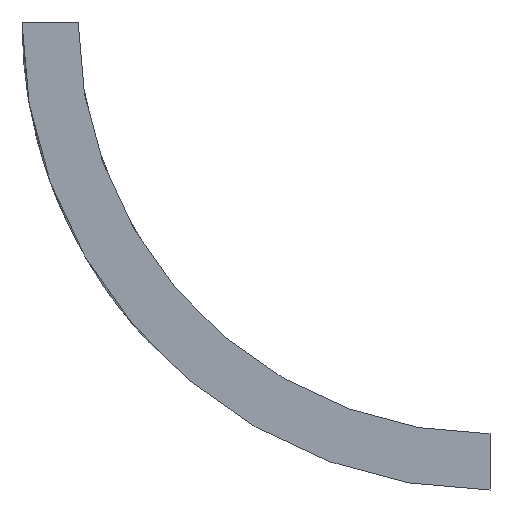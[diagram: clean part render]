
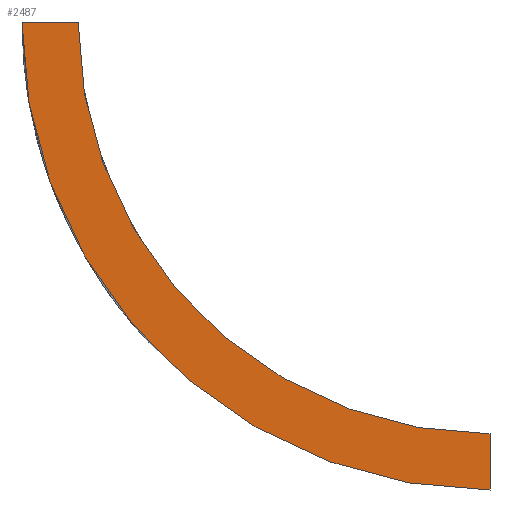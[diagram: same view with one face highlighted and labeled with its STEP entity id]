
A CAD part, front view. The second image highlights one B-rep face of the part: STEP entity #2487.
In plain terms, the highlighted planar face has unit normal (0, -1, 0).
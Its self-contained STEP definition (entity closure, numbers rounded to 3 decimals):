
#32 = CYLINDRICAL_SURFACE('',#33,10.);
#33 = AXIS2_PLACEMENT_3D('',#34,#35,#36);
#34 = CARTESIAN_POINT('',(-29.,-25.,-14.));
#35 = DIRECTION('',(0.,1.,0.));
#36 = DIRECTION('',(-0.707,0.,-0.707));
#422 = VERTEX_POINT('',#423);
#423 = CARTESIAN_POINT('',(-29.,-50.,-24.));
#437 = PLANE('',#438);
#438 = AXIS2_PLACEMENT_3D('',#439,#440,#441);
#439 = CARTESIAN_POINT('',(-29.,0.,-23.4));
#440 = DIRECTION('',(-1.,-0.,-0.));
#441 = DIRECTION('',(0.,0.,-1.));
#449 = EDGE_CURVE('',#450,#422,#452,.T.);
#450 = VERTEX_POINT('',#451);
#451 = CARTESIAN_POINT('',(-39.,-50.,-14.));
#452 = SURFACE_CURVE('',#453,(#458,#465),.PCURVE_S1.);
#453 = CIRCLE('',#454,10.);
#454 = AXIS2_PLACEMENT_3D('',#455,#456,#457);
#455 = CARTESIAN_POINT('',(-29.,-50.,-14.));
#456 = DIRECTION('',(0.,-1.,0.));
#457 = DIRECTION('',(-1.,0.,0.));
#458 = PCURVE('',#32,#459);
#459 = DEFINITIONAL_REPRESENTATION('',(#460),#464);
#460 = LINE('',#461,#462);
#461 = CARTESIAN_POINT('',(0.785,-25.));
#462 = VECTOR('',#463,1.);
#463 = DIRECTION('',(-1.,0.));
#464 = ( GEOMETRIC_REPRESENTATION_CONTEXT(2) 
PARAMETRIC_REPRESENTATION_CONTEXT() REPRESENTATION_CONTEXT('2D SPACE',''
  ) );
#465 = PCURVE('',#466,#471);
#466 = PLANE('',#467);
#467 = AXIS2_PLACEMENT_3D('',#468,#469,#470);
#468 = CARTESIAN_POINT('',(-34.782,-50.,-19.782));
#469 = DIRECTION('',(-0.,-1.,-0.));
#470 = DIRECTION('',(0.,0.,-1.));
#471 = DEFINITIONAL_REPRESENTATION('',(#472),#476);
#472 = CIRCLE('',#473,10.);
#473 = AXIS2_PLACEMENT_2D('',#474,#475);
#474 = CARTESIAN_POINT('',(-5.782,5.782));
#475 = DIRECTION('',(0.,-1.));
#476 = ( GEOMETRIC_REPRESENTATION_CONTEXT(2) 
PARAMETRIC_REPRESENTATION_CONTEXT() REPRESENTATION_CONTEXT('2D SPACE',''
  ) );
#494 = PLANE('',#495);
#495 = AXIS2_PLACEMENT_3D('',#496,#497,#498);
#496 = CARTESIAN_POINT('',(-38.4,-49.027,-14.));
#497 = DIRECTION('',(0.,-0.,-1.));
#498 = DIRECTION('',(-1.,0.,0.));
#1425 = CYLINDRICAL_SURFACE('',#1426,8.8);
#1426 = AXIS2_PLACEMENT_3D('',#1427,#1428,#1429);
#1427 = CARTESIAN_POINT('',(-29.,-25.,-14.));
#1428 = DIRECTION('',(0.,1.,0.));
#1429 = DIRECTION('',(-0.707,0.,-0.707));
#1725 = VERTEX_POINT('',#1726);
#1726 = CARTESIAN_POINT('',(-29.,-50.,-22.8));
#1747 = EDGE_CURVE('',#1748,#1725,#1750,.T.);
#1748 = VERTEX_POINT('',#1749);
#1749 = CARTESIAN_POINT('',(-37.8,-50.,-14.));
#1750 = SURFACE_CURVE('',#1751,(#1756,#1763),.PCURVE_S1.);
#1751 = CIRCLE('',#1752,8.8);
#1752 = AXIS2_PLACEMENT_3D('',#1753,#1754,#1755);
#1753 = CARTESIAN_POINT('',(-29.,-50.,-14.));
#1754 = DIRECTION('',(0.,-1.,-0.));
#1755 = DIRECTION('',(-1.,0.,0.));
#1756 = PCURVE('',#1425,#1757);
#1757 = DEFINITIONAL_REPRESENTATION('',(#1758),#1762);
#1758 = LINE('',#1759,#1760);
#1759 = CARTESIAN_POINT('',(0.785,-25.));
#1760 = VECTOR('',#1761,1.);
#1761 = DIRECTION('',(-1.,0.));
#1762 = ( GEOMETRIC_REPRESENTATION_CONTEXT(2) 
PARAMETRIC_REPRESENTATION_CONTEXT() REPRESENTATION_CONTEXT('2D SPACE',''
  ) );
#1763 = PCURVE('',#466,#1764);
#1764 = DEFINITIONAL_REPRESENTATION('',(#1765),#1769);
#1765 = CIRCLE('',#1766,8.8);
#1766 = AXIS2_PLACEMENT_2D('',#1767,#1768);
#1767 = CARTESIAN_POINT('',(-5.782,5.782));
#1768 = DIRECTION('',(0.,-1.));
#1769 = ( GEOMETRIC_REPRESENTATION_CONTEXT(2) 
PARAMETRIC_REPRESENTATION_CONTEXT() REPRESENTATION_CONTEXT('2D SPACE',''
  ) );
#2465 = EDGE_CURVE('',#422,#1725,#2466,.T.);
#2466 = SURFACE_CURVE('',#2467,(#2471,#2478),.PCURVE_S1.);
#2467 = LINE('',#2468,#2469);
#2468 = CARTESIAN_POINT('',(-29.,-50.,-24.));
#2469 = VECTOR('',#2470,1.);
#2470 = DIRECTION('',(0.,0.,1.));
#2471 = PCURVE('',#437,#2472);
#2472 = DEFINITIONAL_REPRESENTATION('',(#2473),#2477);
#2473 = LINE('',#2474,#2475);
#2474 = CARTESIAN_POINT('',(0.6,50.));
#2475 = VECTOR('',#2476,1.);
#2476 = DIRECTION('',(-1.,0.));
#2477 = ( GEOMETRIC_REPRESENTATION_CONTEXT(2) 
PARAMETRIC_REPRESENTATION_CONTEXT() REPRESENTATION_CONTEXT('2D SPACE',''
  ) );
#2478 = PCURVE('',#466,#2479);
#2479 = DEFINITIONAL_REPRESENTATION('',(#2480),#2484);
#2480 = LINE('',#2481,#2482);
#2481 = CARTESIAN_POINT('',(4.218,5.782));
#2482 = VECTOR('',#2483,1.);
#2483 = DIRECTION('',(-1.,0.));
#2484 = ( GEOMETRIC_REPRESENTATION_CONTEXT(2) 
PARAMETRIC_REPRESENTATION_CONTEXT() REPRESENTATION_CONTEXT('2D SPACE',''
  ) );
#2487 = ADVANCED_FACE('',(#2488),#466,.T.);
#2488 = FACE_BOUND('',#2489,.T.);
#2489 = EDGE_LOOP('',(#2490,#2491,#2492,#2493));
#2490 = ORIENTED_EDGE('',*,*,#449,.T.);
#2491 = ORIENTED_EDGE('',*,*,#2465,.T.);
#2492 = ORIENTED_EDGE('',*,*,#1747,.F.);
#2493 = ORIENTED_EDGE('',*,*,#2494,.F.);
#2494 = EDGE_CURVE('',#450,#1748,#2495,.T.);
#2495 = SURFACE_CURVE('',#2496,(#2500,#2507),.PCURVE_S1.);
#2496 = LINE('',#2497,#2498);
#2497 = CARTESIAN_POINT('',(-39.,-50.,-14.));
#2498 = VECTOR('',#2499,1.);
#2499 = DIRECTION('',(1.,0.,0.));
#2500 = PCURVE('',#466,#2501);
#2501 = DEFINITIONAL_REPRESENTATION('',(#2502),#2506);
#2502 = LINE('',#2503,#2504);
#2503 = CARTESIAN_POINT('',(-5.782,-4.218));
#2504 = VECTOR('',#2505,1.);
#2505 = DIRECTION('',(0.,1.));
#2506 = ( GEOMETRIC_REPRESENTATION_CONTEXT(2) 
PARAMETRIC_REPRESENTATION_CONTEXT() REPRESENTATION_CONTEXT('2D SPACE',''
  ) );
#2507 = PCURVE('',#494,#2508);
#2508 = DEFINITIONAL_REPRESENTATION('',(#2509),#2513);
#2509 = LINE('',#2510,#2511);
#2510 = CARTESIAN_POINT('',(0.6,-0.973));
#2511 = VECTOR('',#2512,1.);
#2512 = DIRECTION('',(-1.,0.));
#2513 = ( GEOMETRIC_REPRESENTATION_CONTEXT(2) 
PARAMETRIC_REPRESENTATION_CONTEXT() REPRESENTATION_CONTEXT('2D SPACE',''
  ) );
